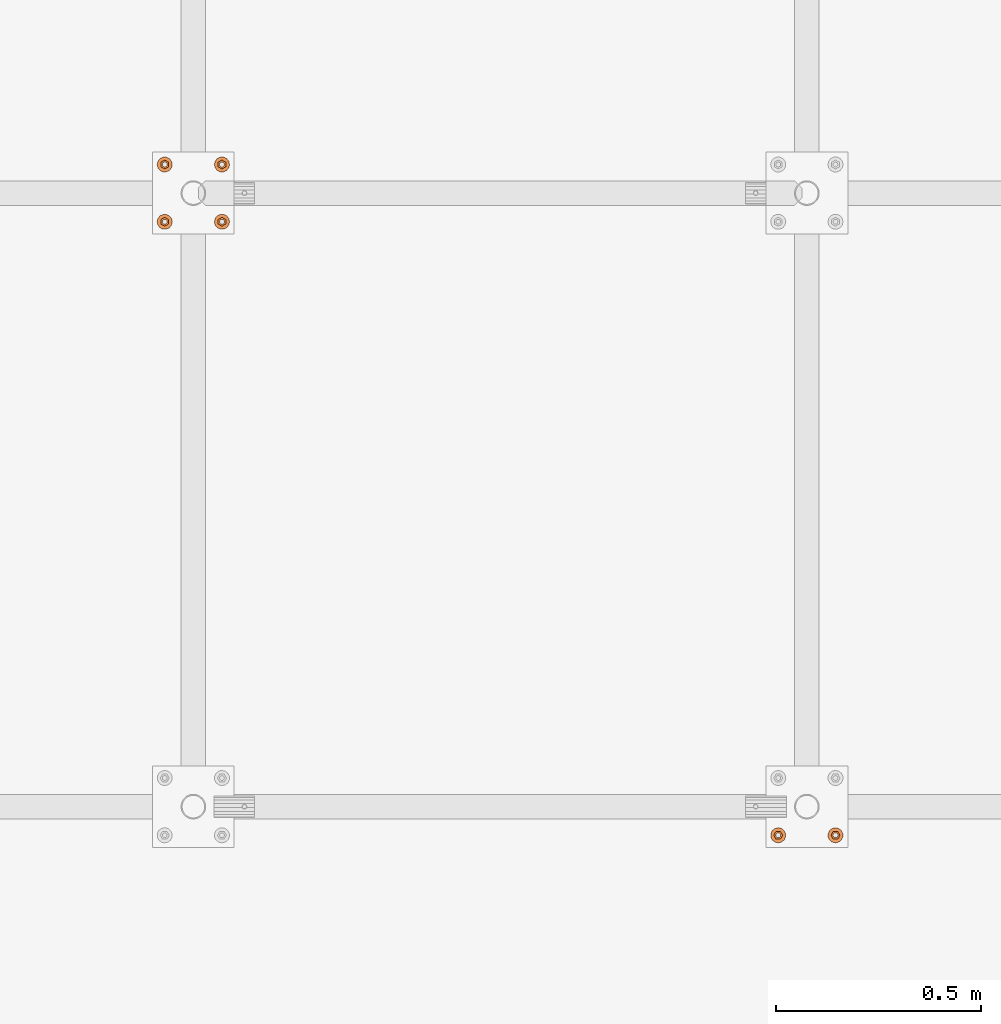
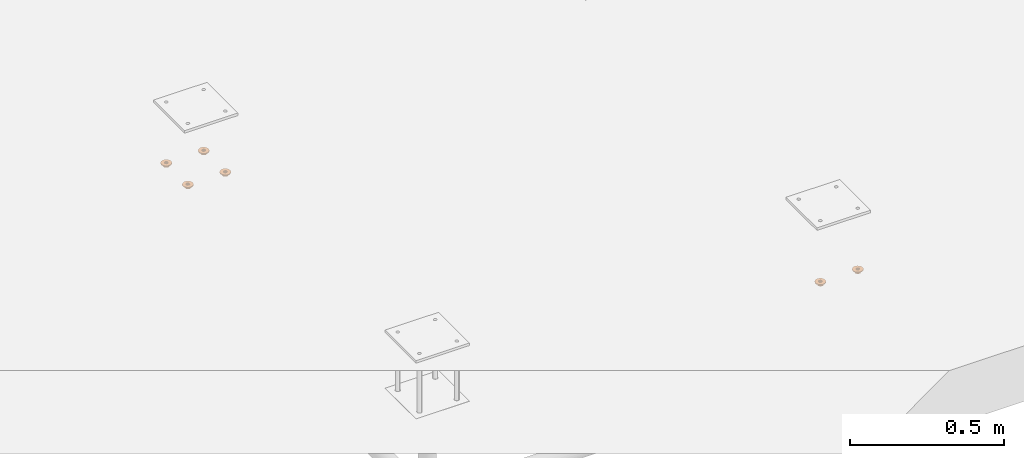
# One storey, part 21 of 30: 12 proxies.
"""IFC2X3 building model written with IfcOpenShell, lengths in millimetres."""

from ifc_helpers import new_model, entity, si_unit, converted_unit, origin_with_axes, place, context, project, spatial, faceted_brep, material, element, save


model = new_model("IFC2X3")

# Units and contexts
model_context = context("Model", 3, precision=1e-09, world=origin_with_axes())
ifc_project = project(units=[si_unit("LENGTHUNIT", "METRE", prefix="MILLI"), si_unit("AREAUNIT", "SQUARE_METRE"), si_unit("VOLUMEUNIT", "CUBIC_METRE"), converted_unit("PLANEANGLEUNIT", "DEGREE", entity("IfcPlaneAngleMeasure", 0.01745329), si_unit("PLANEANGLEUNIT", "RADIAN"), dimensions=[0, 0, 0, 0, 0, 0, 0])], contexts=[model_context])

# Site, building, storey
site_placement = place(None, origin_with_axes())
site = spatial("IfcSite", under=ifc_project, at=site_placement, Name="M?nsinger Stra?e, 81477 M?nchen", CompositionType="ELEMENT")
building_placement = place(site_placement, origin_with_axes())
building = spatial("IfcBuilding", under=site, at=building_placement, Name="Struktur 1", CompositionType="ELEMENT")
storey_placement = place(building_placement, origin_with_axes())
storey = spatial("IfcBuildingStorey", under=building, at=storey_placement, Name="Default Storey", CompositionType="ELEMENT", Elevation=0.0)

# Proxies
ifc_material = material(Name="Kein")
proxy_1_placement = place(None, origin_with_axes())
element("IfcBuildingElementProxy", 1, at=proxy_1_placement, inside=storey, material=ifc_material, ObjectType="-", context=model_context, shape_type="Brep", body=[
    faceted_brep([(2987.849678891, 2906.799376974, 6515.0), (2987.849678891, 2906.799376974, 6512.0), (2992.983041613, 2913.236410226, 6512.0), (2992.983041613, 2913.236410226, 6515.0), (2972.198480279, 2903.227093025, 6515.0), (2980.431754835, 2903.227093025, 6515.0), (2994.815117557, 2921.2632594, 6515.0), (2992.983041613, 2929.290108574, 6515.0), (2987.849678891, 2935.727141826, 6515.0), (2980.431754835, 2939.299425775, 6515.0), (2972.198480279, 2939.299425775, 6515.0), (2964.780556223, 2935.727141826, 6515.0), (2959.647193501, 2929.290108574, 6515.0), (2957.815117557, 2921.2632594, 6515.0), (2959.647193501, 2913.236410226, 6515.0), (2964.780556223, 2906.799376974, 6515.0), (2979.565117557, 2915.634094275, 6515.0), (2976.315117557, 2914.7632594, 6515.0), (2973.065117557, 2915.634094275, 6515.0), (2970.685952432, 2918.0132594, 6515.0), (2969.815117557, 2921.2632594, 6515.0), (2970.685952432, 2924.5132594, 6515.0), (2973.065117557, 2926.892424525, 6515.0), (2976.315117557, 2927.7632594, 6515.0), (2979.565117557, 2926.892424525, 6515.0), (2981.944282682, 2924.5132594, 6515.0), (2982.815117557, 2921.2632594, 6515.0), (2981.944282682, 2918.0132594, 6515.0), (2992.983041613, 2929.290108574, 6512.0), (2994.815117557, 2921.2632594, 6512.0), (2980.431754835, 2903.227093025, 6512.0), (2972.198480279, 2903.227093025, 6512.0), (2964.780556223, 2906.799376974, 6512.0), (2959.647193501, 2913.236410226, 6512.0), (2957.815117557, 2921.2632594, 6512.0), (2959.647193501, 2929.290108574, 6512.0), (2964.780556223, 2935.727141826, 6512.0), (2972.198480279, 2939.299425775, 6512.0), (2980.431754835, 2939.299425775, 6512.0), (2987.849678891, 2935.727141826, 6512.0), (2982.815117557, 2921.2632594, 6512.0), (2981.944282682, 2924.5132594, 6512.0), (2979.565117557, 2926.892424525, 6512.0), (2976.315117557, 2927.7632594, 6512.0), (2973.065117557, 2926.892424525, 6512.0), (2970.685952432, 2924.5132594, 6512.0), (2969.815117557, 2921.2632594, 6512.0), (2970.685952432, 2918.0132594, 6512.0), (2973.065117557, 2915.634094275, 6512.0), (2976.315117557, 2914.7632594, 6512.0), (2979.565117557, 2915.634094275, 6512.0), (2981.944282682, 2918.0132594, 6512.0)], [[[0, 1, 2, 3]], [[4, 5, 0, 3, 6, 7, 8, 9, 10, 11, 12, 13, 14, 15], [16, 17, 18, 19, 20, 21, 22, 23, 24, 25, 26, 27]], [[28, 29, 2, 1, 30, 31, 32, 33, 34, 35, 36, 37, 38, 39], [40, 41, 42, 43, 44, 45, 46, 47, 48, 49, 50, 51]], [[1, 0, 5, 30]], [[27, 51, 50, 16]], [[51, 27, 26, 40]], [[3, 2, 29, 6]], [[30, 5, 4, 31]], [[16, 50, 49, 17]], [[40, 26, 25, 41]], [[6, 29, 28, 7]], [[31, 4, 15, 32]], [[17, 49, 48, 18]], [[41, 25, 24, 42]], [[7, 28, 39, 8]], [[32, 15, 14, 33]], [[18, 48, 47, 19]], [[42, 24, 23, 43]], [[8, 39, 38, 9]], [[33, 14, 13, 34]], [[19, 47, 46, 20]], [[22, 44, 43, 23]], [[9, 38, 37, 10]], [[45, 21, 20, 46]], [[44, 22, 21, 45]], [[34, 13, 12, 35]], [[10, 37, 36, 11]], [[35, 12, 11, 36]]]),
])
proxy_2_placement = place(None, origin_with_axes())
element("IfcBuildingElementProxy", 2, at=proxy_2_placement, inside=storey, material=ifc_material, ObjectType="-", context=model_context, shape_type="Brep", body=[
    faceted_brep([(2982.315117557, 2921.2632594, 6512.0), (2982.315117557, 2921.2632594, 6502.0), (2981.51126998, 2918.2632594, 6502.0), (2981.51126998, 2918.2632594, 6512.0), (2979.315117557, 2916.067106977, 6502.0), (2979.315117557, 2916.067106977, 6512.0), (2981.51126998, 2924.2632594, 6512.0), (2981.51126998, 2924.2632594, 6502.0), (2985.815117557, 2926.748086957, 6512.0), (2976.315117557, 2932.232914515, 6512.0), (2966.815117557, 2926.748086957, 6512.0), (2966.815117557, 2915.778431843, 6512.0), (2976.315117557, 2910.293604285, 6512.0), (2985.815117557, 2915.778431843, 6512.0), (2979.315117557, 2926.459411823, 6512.0), (2976.315117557, 2915.2632594, 6512.0), (2973.315117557, 2916.067106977, 6512.0), (2971.118965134, 2918.2632594, 6512.0), (2970.315117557, 2921.2632594, 6512.0), (2971.118965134, 2924.2632594, 6512.0), (2973.315117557, 2926.459411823, 6512.0), (2976.315117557, 2927.2632594, 6512.0), (2976.315117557, 2932.232914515, 6502.0), (2985.815117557, 2926.748086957, 6502.0), (2985.815117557, 2915.778431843, 6502.0), (2976.315117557, 2910.293604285, 6502.0), (2966.815117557, 2915.778431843, 6502.0), (2966.815117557, 2926.748086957, 6502.0), (2979.315117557, 2926.459411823, 6502.0), (2976.315117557, 2927.2632594, 6502.0), (2973.315117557, 2926.459411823, 6502.0), (2971.118965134, 2924.2632594, 6502.0), (2970.315117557, 2921.2632594, 6502.0), (2971.118965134, 2918.2632594, 6502.0), (2973.315117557, 2916.067106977, 6502.0), (2976.315117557, 2915.2632594, 6502.0)], [[[0, 1, 2, 3]], [[3, 2, 4, 5]], [[1, 0, 6, 7]], [[8, 9, 10, 11, 12, 13], [14, 6, 0, 3, 5, 15, 16, 17, 18, 19, 20, 21]], [[22, 23, 24, 25, 26, 27], [1, 7, 28, 29, 30, 31, 32, 33, 34, 35, 4, 2]], [[7, 6, 14, 28]], [[24, 23, 8, 13]], [[5, 4, 35, 15]], [[13, 12, 25, 24]], [[28, 14, 21, 29]], [[23, 22, 9, 8]], [[15, 35, 34, 16]], [[12, 11, 26, 25]], [[29, 21, 20, 30]], [[22, 27, 10, 9]], [[16, 34, 33, 17]], [[27, 26, 11, 10]], [[30, 20, 19, 31]], [[17, 33, 32, 18]], [[31, 19, 18, 32]]]),
])
proxy_3_placement = place(None, origin_with_axes())
element("IfcBuildingElementProxy", 3, at=proxy_3_placement, inside=storey, material=ifc_material, ObjectType="-", context=model_context, shape_type="Brep", body=[
    faceted_brep([(2842.315117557, 2921.2632594, 6512.0), (2842.315117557, 2921.2632594, 6502.0), (2841.51126998, 2918.2632594, 6502.0), (2841.51126998, 2918.2632594, 6512.0), (2839.315117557, 2916.067106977, 6502.0), (2839.315117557, 2916.067106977, 6512.0), (2841.51126998, 2924.2632594, 6512.0), (2841.51126998, 2924.2632594, 6502.0), (2845.815117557, 2926.748086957, 6512.0), (2836.315117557, 2932.232914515, 6512.0), (2826.815117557, 2926.748086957, 6512.0), (2826.815117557, 2915.778431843, 6512.0), (2836.315117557, 2910.293604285, 6512.0), (2845.815117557, 2915.778431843, 6512.0), (2839.315117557, 2926.459411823, 6512.0), (2836.315117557, 2915.2632594, 6512.0), (2833.315117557, 2916.067106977, 6512.0), (2831.118965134, 2918.2632594, 6512.0), (2830.315117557, 2921.2632594, 6512.0), (2831.118965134, 2924.2632594, 6512.0), (2833.315117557, 2926.459411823, 6512.0), (2836.315117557, 2927.2632594, 6512.0), (2836.315117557, 2932.232914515, 6502.0), (2845.815117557, 2926.748086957, 6502.0), (2845.815117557, 2915.778431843, 6502.0), (2836.315117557, 2910.293604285, 6502.0), (2826.815117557, 2915.778431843, 6502.0), (2826.815117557, 2926.748086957, 6502.0), (2839.315117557, 2926.459411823, 6502.0), (2836.315117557, 2927.2632594, 6502.0), (2833.315117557, 2926.459411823, 6502.0), (2831.118965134, 2924.2632594, 6502.0), (2830.315117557, 2921.2632594, 6502.0), (2831.118965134, 2918.2632594, 6502.0), (2833.315117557, 2916.067106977, 6502.0), (2836.315117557, 2915.2632594, 6502.0)], [[[0, 1, 2, 3]], [[3, 2, 4, 5]], [[1, 0, 6, 7]], [[8, 9, 10, 11, 12, 13], [14, 6, 0, 3, 5, 15, 16, 17, 18, 19, 20, 21]], [[22, 23, 24, 25, 26, 27], [1, 7, 28, 29, 30, 31, 32, 33, 34, 35, 4, 2]], [[7, 6, 14, 28]], [[24, 23, 8, 13]], [[5, 4, 35, 15]], [[13, 12, 25, 24]], [[28, 14, 21, 29]], [[23, 22, 9, 8]], [[15, 35, 34, 16]], [[12, 11, 26, 25]], [[29, 21, 20, 30]], [[22, 27, 10, 9]], [[16, 34, 33, 17]], [[27, 26, 11, 10]], [[30, 20, 19, 31]], [[17, 33, 32, 18]], [[31, 19, 18, 32]]]),
])
proxy_4_placement = place(None, origin_with_axes())
element("IfcBuildingElementProxy", 4, at=proxy_4_placement, inside=storey, material=ifc_material, ObjectType="-", context=model_context, shape_type="Brep", body=[
    faceted_brep([(2847.849678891, 2906.799376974, 6515.0), (2847.849678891, 2906.799376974, 6512.0), (2852.983041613, 2913.236410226, 6512.0), (2852.983041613, 2913.236410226, 6515.0), (2832.198480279, 2903.227093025, 6515.0), (2840.431754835, 2903.227093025, 6515.0), (2854.815117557, 2921.2632594, 6515.0), (2852.983041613, 2929.290108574, 6515.0), (2847.849678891, 2935.727141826, 6515.0), (2840.431754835, 2939.299425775, 6515.0), (2832.198480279, 2939.299425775, 6515.0), (2824.780556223, 2935.727141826, 6515.0), (2819.647193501, 2929.290108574, 6515.0), (2817.815117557, 2921.2632594, 6515.0), (2819.647193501, 2913.236410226, 6515.0), (2824.780556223, 2906.799376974, 6515.0), (2839.565117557, 2915.634094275, 6515.0), (2836.315117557, 2914.7632594, 6515.0), (2833.065117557, 2915.634094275, 6515.0), (2830.685952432, 2918.0132594, 6515.0), (2829.815117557, 2921.2632594, 6515.0), (2830.685952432, 2924.5132594, 6515.0), (2833.065117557, 2926.892424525, 6515.0), (2836.315117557, 2927.7632594, 6515.0), (2839.565117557, 2926.892424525, 6515.0), (2841.944282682, 2924.5132594, 6515.0), (2842.815117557, 2921.2632594, 6515.0), (2841.944282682, 2918.0132594, 6515.0), (2852.983041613, 2929.290108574, 6512.0), (2854.815117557, 2921.2632594, 6512.0), (2840.431754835, 2903.227093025, 6512.0), (2832.198480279, 2903.227093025, 6512.0), (2824.780556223, 2906.799376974, 6512.0), (2819.647193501, 2913.236410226, 6512.0), (2817.815117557, 2921.2632594, 6512.0), (2819.647193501, 2929.290108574, 6512.0), (2824.780556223, 2935.727141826, 6512.0), (2832.198480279, 2939.299425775, 6512.0), (2840.431754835, 2939.299425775, 6512.0), (2847.849678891, 2935.727141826, 6512.0), (2842.815117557, 2921.2632594, 6512.0), (2841.944282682, 2924.5132594, 6512.0), (2839.565117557, 2926.892424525, 6512.0), (2836.315117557, 2927.7632594, 6512.0), (2833.065117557, 2926.892424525, 6512.0), (2830.685952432, 2924.5132594, 6512.0), (2829.815117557, 2921.2632594, 6512.0), (2830.685952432, 2918.0132594, 6512.0), (2833.065117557, 2915.634094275, 6512.0), (2836.315117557, 2914.7632594, 6512.0), (2839.565117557, 2915.634094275, 6512.0), (2841.944282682, 2918.0132594, 6512.0)], [[[0, 1, 2, 3]], [[4, 5, 0, 3, 6, 7, 8, 9, 10, 11, 12, 13, 14, 15], [16, 17, 18, 19, 20, 21, 22, 23, 24, 25, 26, 27]], [[28, 29, 2, 1, 30, 31, 32, 33, 34, 35, 36, 37, 38, 39], [40, 41, 42, 43, 44, 45, 46, 47, 48, 49, 50, 51]], [[1, 0, 5, 30]], [[27, 51, 50, 16]], [[51, 27, 26, 40]], [[3, 2, 29, 6]], [[30, 5, 4, 31]], [[16, 50, 49, 17]], [[40, 26, 25, 41]], [[6, 29, 28, 7]], [[31, 4, 15, 32]], [[17, 49, 48, 18]], [[41, 25, 24, 42]], [[7, 28, 39, 8]], [[32, 15, 14, 33]], [[18, 48, 47, 19]], [[42, 24, 23, 43]], [[8, 39, 38, 9]], [[33, 14, 13, 34]], [[19, 47, 46, 20]], [[22, 44, 43, 23]], [[9, 38, 37, 10]], [[45, 21, 20, 46]], [[44, 22, 21, 45]], [[34, 13, 12, 35]], [[10, 37, 36, 11]], [[35, 12, 11, 36]]]),
])
proxy_5_placement = place(None, origin_with_axes())
element("IfcBuildingElementProxy", 5, at=proxy_5_placement, inside=storey, material=ifc_material, ObjectType="-", context=model_context, shape_type="Brep", body=[
    faceted_brep([(2847.849678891, 3046.799376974, 6515.0), (2847.849678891, 3046.799376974, 6512.0), (2852.983041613, 3053.236410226, 6512.0), (2852.983041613, 3053.236410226, 6515.0), (2832.198480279, 3043.227093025, 6515.0), (2840.431754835, 3043.227093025, 6515.0), (2854.815117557, 3061.2632594, 6515.0), (2852.983041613, 3069.290108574, 6515.0), (2847.849678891, 3075.727141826, 6515.0), (2840.431754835, 3079.299425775, 6515.0), (2832.198480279, 3079.299425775, 6515.0), (2824.780556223, 3075.727141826, 6515.0), (2819.647193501, 3069.290108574, 6515.0), (2817.815117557, 3061.2632594, 6515.0), (2819.647193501, 3053.236410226, 6515.0), (2824.780556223, 3046.799376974, 6515.0), (2839.565117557, 3055.634094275, 6515.0), (2836.315117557, 3054.7632594, 6515.0), (2833.065117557, 3055.634094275, 6515.0), (2830.685952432, 3058.0132594, 6515.0), (2829.815117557, 3061.2632594, 6515.0), (2830.685952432, 3064.5132594, 6515.0), (2833.065117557, 3066.892424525, 6515.0), (2836.315117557, 3067.7632594, 6515.0), (2839.565117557, 3066.892424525, 6515.0), (2841.944282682, 3064.5132594, 6515.0), (2842.815117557, 3061.2632594, 6515.0), (2841.944282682, 3058.0132594, 6515.0), (2852.983041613, 3069.290108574, 6512.0), (2854.815117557, 3061.2632594, 6512.0), (2840.431754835, 3043.227093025, 6512.0), (2832.198480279, 3043.227093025, 6512.0), (2824.780556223, 3046.799376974, 6512.0), (2819.647193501, 3053.236410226, 6512.0), (2817.815117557, 3061.2632594, 6512.0), (2819.647193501, 3069.290108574, 6512.0), (2824.780556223, 3075.727141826, 6512.0), (2832.198480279, 3079.299425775, 6512.0), (2840.431754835, 3079.299425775, 6512.0), (2847.849678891, 3075.727141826, 6512.0), (2842.815117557, 3061.2632594, 6512.0), (2841.944282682, 3064.5132594, 6512.0), (2839.565117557, 3066.892424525, 6512.0), (2836.315117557, 3067.7632594, 6512.0), (2833.065117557, 3066.892424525, 6512.0), (2830.685952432, 3064.5132594, 6512.0), (2829.815117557, 3061.2632594, 6512.0), (2830.685952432, 3058.0132594, 6512.0), (2833.065117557, 3055.634094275, 6512.0), (2836.315117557, 3054.7632594, 6512.0), (2839.565117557, 3055.634094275, 6512.0), (2841.944282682, 3058.0132594, 6512.0)], [[[0, 1, 2, 3]], [[4, 5, 0, 3, 6, 7, 8, 9, 10, 11, 12, 13, 14, 15], [16, 17, 18, 19, 20, 21, 22, 23, 24, 25, 26, 27]], [[28, 29, 2, 1, 30, 31, 32, 33, 34, 35, 36, 37, 38, 39], [40, 41, 42, 43, 44, 45, 46, 47, 48, 49, 50, 51]], [[1, 0, 5, 30]], [[27, 51, 50, 16]], [[51, 27, 26, 40]], [[3, 2, 29, 6]], [[30, 5, 4, 31]], [[16, 50, 49, 17]], [[40, 26, 25, 41]], [[6, 29, 28, 7]], [[31, 4, 15, 32]], [[17, 49, 48, 18]], [[41, 25, 24, 42]], [[7, 28, 39, 8]], [[32, 15, 14, 33]], [[18, 48, 47, 19]], [[42, 24, 23, 43]], [[8, 39, 38, 9]], [[33, 14, 13, 34]], [[19, 47, 46, 20]], [[22, 44, 43, 23]], [[9, 38, 37, 10]], [[45, 21, 20, 46]], [[44, 22, 21, 45]], [[34, 13, 12, 35]], [[10, 37, 36, 11]], [[35, 12, 11, 36]]]),
])
proxy_6_placement = place(None, origin_with_axes())
element("IfcBuildingElementProxy", 6, at=proxy_6_placement, inside=storey, material=ifc_material, ObjectType="-", context=model_context, shape_type="Brep", body=[
    faceted_brep([(2842.315117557, 3061.2632594, 6512.0), (2842.315117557, 3061.2632594, 6502.0), (2841.51126998, 3058.2632594, 6502.0), (2841.51126998, 3058.2632594, 6512.0), (2839.315117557, 3056.067106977, 6502.0), (2839.315117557, 3056.067106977, 6512.0), (2841.51126998, 3064.2632594, 6512.0), (2841.51126998, 3064.2632594, 6502.0), (2845.815117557, 3066.748086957, 6512.0), (2836.315117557, 3072.232914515, 6512.0), (2826.815117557, 3066.748086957, 6512.0), (2826.815117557, 3055.778431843, 6512.0), (2836.315117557, 3050.293604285, 6512.0), (2845.815117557, 3055.778431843, 6512.0), (2839.315117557, 3066.459411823, 6512.0), (2836.315117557, 3055.2632594, 6512.0), (2833.315117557, 3056.067106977, 6512.0), (2831.118965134, 3058.2632594, 6512.0), (2830.315117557, 3061.2632594, 6512.0), (2831.118965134, 3064.2632594, 6512.0), (2833.315117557, 3066.459411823, 6512.0), (2836.315117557, 3067.2632594, 6512.0), (2836.315117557, 3072.232914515, 6502.0), (2845.815117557, 3066.748086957, 6502.0), (2845.815117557, 3055.778431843, 6502.0), (2836.315117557, 3050.293604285, 6502.0), (2826.815117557, 3055.778431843, 6502.0), (2826.815117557, 3066.748086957, 6502.0), (2839.315117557, 3066.459411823, 6502.0), (2836.315117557, 3067.2632594, 6502.0), (2833.315117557, 3066.459411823, 6502.0), (2831.118965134, 3064.2632594, 6502.0), (2830.315117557, 3061.2632594, 6502.0), (2831.118965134, 3058.2632594, 6502.0), (2833.315117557, 3056.067106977, 6502.0), (2836.315117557, 3055.2632594, 6502.0)], [[[0, 1, 2, 3]], [[3, 2, 4, 5]], [[1, 0, 6, 7]], [[8, 9, 10, 11, 12, 13], [14, 6, 0, 3, 5, 15, 16, 17, 18, 19, 20, 21]], [[22, 23, 24, 25, 26, 27], [1, 7, 28, 29, 30, 31, 32, 33, 34, 35, 4, 2]], [[7, 6, 14, 28]], [[24, 23, 8, 13]], [[5, 4, 35, 15]], [[13, 12, 25, 24]], [[28, 14, 21, 29]], [[23, 22, 9, 8]], [[15, 35, 34, 16]], [[12, 11, 26, 25]], [[29, 21, 20, 30]], [[22, 27, 10, 9]], [[16, 34, 33, 17]], [[27, 26, 11, 10]], [[30, 20, 19, 31]], [[17, 33, 32, 18]], [[31, 19, 18, 32]]]),
])
proxy_7_placement = place(None, origin_with_axes())
element("IfcBuildingElementProxy", 7, at=proxy_7_placement, inside=storey, material=ifc_material, ObjectType="-", context=model_context, shape_type="Brep", body=[
    faceted_brep([(2982.315117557, 3061.2632594, 6512.0), (2982.315117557, 3061.2632594, 6502.0), (2981.51126998, 3058.2632594, 6502.0), (2981.51126998, 3058.2632594, 6512.0), (2979.315117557, 3056.067106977, 6502.0), (2979.315117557, 3056.067106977, 6512.0), (2981.51126998, 3064.2632594, 6512.0), (2981.51126998, 3064.2632594, 6502.0), (2985.815117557, 3066.748086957, 6512.0), (2976.315117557, 3072.232914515, 6512.0), (2966.815117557, 3066.748086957, 6512.0), (2966.815117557, 3055.778431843, 6512.0), (2976.315117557, 3050.293604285, 6512.0), (2985.815117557, 3055.778431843, 6512.0), (2979.315117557, 3066.459411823, 6512.0), (2976.315117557, 3055.2632594, 6512.0), (2973.315117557, 3056.067106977, 6512.0), (2971.118965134, 3058.2632594, 6512.0), (2970.315117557, 3061.2632594, 6512.0), (2971.118965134, 3064.2632594, 6512.0), (2973.315117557, 3066.459411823, 6512.0), (2976.315117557, 3067.2632594, 6512.0), (2976.315117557, 3072.232914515, 6502.0), (2985.815117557, 3066.748086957, 6502.0), (2985.815117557, 3055.778431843, 6502.0), (2976.315117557, 3050.293604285, 6502.0), (2966.815117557, 3055.778431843, 6502.0), (2966.815117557, 3066.748086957, 6502.0), (2979.315117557, 3066.459411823, 6502.0), (2976.315117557, 3067.2632594, 6502.0), (2973.315117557, 3066.459411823, 6502.0), (2971.118965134, 3064.2632594, 6502.0), (2970.315117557, 3061.2632594, 6502.0), (2971.118965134, 3058.2632594, 6502.0), (2973.315117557, 3056.067106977, 6502.0), (2976.315117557, 3055.2632594, 6502.0)], [[[0, 1, 2, 3]], [[3, 2, 4, 5]], [[1, 0, 6, 7]], [[8, 9, 10, 11, 12, 13], [14, 6, 0, 3, 5, 15, 16, 17, 18, 19, 20, 21]], [[22, 23, 24, 25, 26, 27], [1, 7, 28, 29, 30, 31, 32, 33, 34, 35, 4, 2]], [[7, 6, 14, 28]], [[24, 23, 8, 13]], [[5, 4, 35, 15]], [[13, 12, 25, 24]], [[28, 14, 21, 29]], [[23, 22, 9, 8]], [[15, 35, 34, 16]], [[12, 11, 26, 25]], [[29, 21, 20, 30]], [[22, 27, 10, 9]], [[16, 34, 33, 17]], [[27, 26, 11, 10]], [[30, 20, 19, 31]], [[17, 33, 32, 18]], [[31, 19, 18, 32]]]),
])
proxy_8_placement = place(None, origin_with_axes())
element("IfcBuildingElementProxy", 8, at=proxy_8_placement, inside=storey, material=ifc_material, ObjectType="-", context=model_context, shape_type="Brep", body=[
    faceted_brep([(2987.849678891, 3046.799376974, 6515.0), (2987.849678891, 3046.799376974, 6512.0), (2992.983041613, 3053.236410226, 6512.0), (2992.983041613, 3053.236410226, 6515.0), (2972.198480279, 3043.227093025, 6515.0), (2980.431754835, 3043.227093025, 6515.0), (2994.815117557, 3061.2632594, 6515.0), (2992.983041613, 3069.290108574, 6515.0), (2987.849678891, 3075.727141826, 6515.0), (2980.431754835, 3079.299425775, 6515.0), (2972.198480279, 3079.299425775, 6515.0), (2964.780556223, 3075.727141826, 6515.0), (2959.647193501, 3069.290108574, 6515.0), (2957.815117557, 3061.2632594, 6515.0), (2959.647193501, 3053.236410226, 6515.0), (2964.780556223, 3046.799376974, 6515.0), (2979.565117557, 3055.634094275, 6515.0), (2976.315117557, 3054.7632594, 6515.0), (2973.065117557, 3055.634094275, 6515.0), (2970.685952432, 3058.0132594, 6515.0), (2969.815117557, 3061.2632594, 6515.0), (2970.685952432, 3064.5132594, 6515.0), (2973.065117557, 3066.892424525, 6515.0), (2976.315117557, 3067.7632594, 6515.0), (2979.565117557, 3066.892424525, 6515.0), (2981.944282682, 3064.5132594, 6515.0), (2982.815117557, 3061.2632594, 6515.0), (2981.944282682, 3058.0132594, 6515.0), (2992.983041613, 3069.290108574, 6512.0), (2994.815117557, 3061.2632594, 6512.0), (2980.431754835, 3043.227093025, 6512.0), (2972.198480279, 3043.227093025, 6512.0), (2964.780556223, 3046.799376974, 6512.0), (2959.647193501, 3053.236410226, 6512.0), (2957.815117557, 3061.2632594, 6512.0), (2959.647193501, 3069.290108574, 6512.0), (2964.780556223, 3075.727141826, 6512.0), (2972.198480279, 3079.299425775, 6512.0), (2980.431754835, 3079.299425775, 6512.0), (2987.849678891, 3075.727141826, 6512.0), (2982.815117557, 3061.2632594, 6512.0), (2981.944282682, 3064.5132594, 6512.0), (2979.565117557, 3066.892424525, 6512.0), (2976.315117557, 3067.7632594, 6512.0), (2973.065117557, 3066.892424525, 6512.0), (2970.685952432, 3064.5132594, 6512.0), (2969.815117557, 3061.2632594, 6512.0), (2970.685952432, 3058.0132594, 6512.0), (2973.065117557, 3055.634094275, 6512.0), (2976.315117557, 3054.7632594, 6512.0), (2979.565117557, 3055.634094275, 6512.0), (2981.944282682, 3058.0132594, 6512.0)], [[[0, 1, 2, 3]], [[4, 5, 0, 3, 6, 7, 8, 9, 10, 11, 12, 13, 14, 15], [16, 17, 18, 19, 20, 21, 22, 23, 24, 25, 26, 27]], [[28, 29, 2, 1, 30, 31, 32, 33, 34, 35, 36, 37, 38, 39], [40, 41, 42, 43, 44, 45, 46, 47, 48, 49, 50, 51]], [[1, 0, 5, 30]], [[27, 51, 50, 16]], [[51, 27, 26, 40]], [[3, 2, 29, 6]], [[30, 5, 4, 31]], [[16, 50, 49, 17]], [[40, 26, 25, 41]], [[6, 29, 28, 7]], [[31, 4, 15, 32]], [[17, 49, 48, 18]], [[41, 25, 24, 42]], [[7, 28, 39, 8]], [[32, 15, 14, 33]], [[18, 48, 47, 19]], [[42, 24, 23, 43]], [[8, 39, 38, 9]], [[33, 14, 13, 34]], [[19, 47, 46, 20]], [[22, 44, 43, 23]], [[9, 38, 37, 10]], [[45, 21, 20, 46]], [[44, 22, 21, 45]], [[34, 13, 12, 35]], [[10, 37, 36, 11]], [[35, 12, 11, 36]]]),
])
proxy_9_placement = place(None, origin_with_axes())
element("IfcBuildingElementProxy", 9, at=proxy_9_placement, inside=storey, material=ifc_material, ObjectType="-", context=model_context, shape_type="Brep", body=[
    faceted_brep([(4476.315117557, 1415.2632594, 6502.0), (4476.315117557, 1415.2632594, 6512.0), (4479.315117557, 1416.067106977, 6512.0), (4479.315117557, 1416.067106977, 6502.0), (4481.51126998, 1418.2632594, 6512.0), (4481.51126998, 1418.2632594, 6502.0), (4473.315117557, 1416.067106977, 6502.0), (4473.315117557, 1416.067106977, 6512.0), (4470.83029, 1411.7632594, 6512.0), (4481.799945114, 1411.7632594, 6512.0), (4487.284772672, 1421.2632594, 6512.0), (4481.799945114, 1430.7632594, 6512.0), (4470.83029, 1430.7632594, 6512.0), (4465.345462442, 1421.2632594, 6512.0), (4471.118965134, 1418.2632594, 6512.0), (4470.315117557, 1421.2632594, 6512.0), (4471.118965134, 1424.2632594, 6512.0), (4473.315117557, 1426.459411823, 6512.0), (4476.315117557, 1427.2632594, 6512.0), (4479.315117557, 1426.459411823, 6512.0), (4481.51126998, 1424.2632594, 6512.0), (4482.315117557, 1421.2632594, 6512.0), (4470.83029, 1411.7632594, 6502.0), (4465.345462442, 1421.2632594, 6502.0), (4470.83029, 1430.7632594, 6502.0), (4481.799945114, 1430.7632594, 6502.0), (4487.284772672, 1421.2632594, 6502.0), (4481.799945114, 1411.7632594, 6502.0), (4471.118965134, 1418.2632594, 6502.0), (4482.315117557, 1421.2632594, 6502.0), (4470.315117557, 1421.2632594, 6502.0), (4481.51126998, 1424.2632594, 6502.0), (4471.118965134, 1424.2632594, 6502.0), (4479.315117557, 1426.459411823, 6502.0), (4473.315117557, 1426.459411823, 6502.0), (4476.315117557, 1427.2632594, 6502.0)], [[[0, 1, 2, 3]], [[3, 2, 4, 5]], [[1, 0, 6, 7]], [[8, 9, 10, 11, 12, 13], [7, 14, 15, 16, 17, 18, 19, 20, 21, 4, 2, 1]], [[22, 23, 24, 25, 26, 27]], [[7, 6, 28, 14]], [[22, 27, 9, 8]], [[5, 4, 21, 29]], [[10, 9, 27, 26]], [[14, 28, 30, 15]], [[23, 22, 8, 13]], [[29, 21, 20, 31]], [[11, 10, 26, 25]], [[15, 30, 32, 16]], [[24, 23, 13, 12]], [[31, 20, 19, 33]], [[25, 24, 12, 11]], [[16, 32, 34, 17]], [[33, 19, 18, 35]], [[17, 34, 35, 18]]]),
])
proxy_10_placement = place(None, origin_with_axes())
element("IfcBuildingElementProxy", 10, at=proxy_10_placement, inside=storey, material=ifc_material, ObjectType="-", context=model_context, shape_type="Brep", body=[
    faceted_brep([(4490.778999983, 1409.728698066, 6512.0), (4490.778999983, 1409.728698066, 6515.0), (4484.341966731, 1404.595335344, 6515.0), (4484.341966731, 1404.595335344, 6512.0), (4494.351283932, 1417.146622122, 6515.0), (4494.351283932, 1425.379896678, 6515.0), (4490.778999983, 1432.797820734, 6515.0), (4484.341966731, 1437.931183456, 6515.0), (4476.315117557, 1439.7632594, 6515.0), (4468.288268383, 1437.931183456, 6515.0), (4461.851235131, 1432.797820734, 6515.0), (4458.278951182, 1425.379896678, 6515.0), (4458.278951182, 1417.146622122, 6515.0), (4461.851235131, 1409.728698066, 6515.0), (4468.288268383, 1404.595335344, 6515.0), (4476.315117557, 1402.7632594, 6515.0), (4481.944282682, 1418.0132594, 6515.0), (4479.565117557, 1415.634094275, 6515.0), (4476.315117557, 1414.7632594, 6515.0), (4473.065117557, 1415.634094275, 6515.0), (4470.685952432, 1418.0132594, 6515.0), (4469.815117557, 1421.2632594, 6515.0), (4470.685952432, 1424.5132594, 6515.0), (4473.065117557, 1426.892424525, 6515.0), (4476.315117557, 1427.7632594, 6515.0), (4479.565117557, 1426.892424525, 6515.0), (4481.944282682, 1424.5132594, 6515.0), (4482.815117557, 1421.2632594, 6515.0), (4476.315117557, 1402.7632594, 6512.0), (4468.288268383, 1404.595335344, 6512.0), (4461.851235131, 1409.728698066, 6512.0), (4458.278951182, 1417.146622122, 6512.0), (4458.278951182, 1425.379896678, 6512.0), (4461.851235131, 1432.797820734, 6512.0), (4468.288268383, 1437.931183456, 6512.0), (4476.315117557, 1439.7632594, 6512.0), (4484.341966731, 1437.931183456, 6512.0), (4490.778999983, 1432.797820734, 6512.0), (4494.351283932, 1425.379896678, 6512.0), (4494.351283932, 1417.146622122, 6512.0), (4476.315117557, 1414.7632594, 6512.0), (4479.565117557, 1415.634094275, 6512.0), (4481.944282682, 1418.0132594, 6512.0), (4482.815117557, 1421.2632594, 6512.0), (4481.944282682, 1424.5132594, 6512.0), (4479.565117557, 1426.892424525, 6512.0), (4476.315117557, 1427.7632594, 6512.0), (4473.065117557, 1426.892424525, 6512.0), (4470.685952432, 1424.5132594, 6512.0), (4469.815117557, 1421.2632594, 6512.0), (4470.685952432, 1418.0132594, 6512.0), (4473.065117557, 1415.634094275, 6512.0)], [[[0, 1, 2, 3]], [[4, 5, 6, 7, 8, 9, 10, 11, 12, 13, 14, 15, 2, 1], [16, 17, 18, 19, 20, 21, 22, 23, 24, 25, 26, 27]], [[28, 29, 30, 31, 32, 33, 34, 35, 36, 37, 38, 39, 0, 3], [40, 41, 42, 43, 44, 45, 46, 47, 48, 49, 50, 51]], [[1, 0, 39, 4]], [[41, 17, 16, 42]], [[17, 41, 40, 18]], [[3, 2, 15, 28]], [[4, 39, 38, 5]], [[42, 16, 27, 43]], [[18, 40, 51, 19]], [[28, 15, 14, 29]], [[5, 38, 37, 6]], [[43, 27, 26, 44]], [[19, 51, 50, 20]], [[29, 14, 13, 30]], [[6, 37, 36, 7]], [[44, 26, 25, 45]], [[20, 50, 49, 21]], [[30, 13, 12, 31]], [[7, 36, 35, 8]], [[45, 25, 24, 46]], [[48, 22, 21, 49]], [[31, 12, 11, 32]], [[23, 47, 46, 24]], [[22, 48, 47, 23]], [[8, 35, 34, 9]], [[32, 11, 10, 33]], [[9, 34, 33, 10]]]),
])
proxy_11_placement = place(None, origin_with_axes())
element("IfcBuildingElementProxy", 11, at=proxy_11_placement, inside=storey, material=ifc_material, ObjectType="-", context=model_context, shape_type="Brep", body=[
    faceted_brep([(4350.778999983, 1409.728698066, 6512.0), (4350.778999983, 1409.728698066, 6515.0), (4344.341966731, 1404.595335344, 6515.0), (4344.341966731, 1404.595335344, 6512.0), (4354.351283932, 1417.146622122, 6515.0), (4354.351283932, 1425.379896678, 6515.0), (4350.778999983, 1432.797820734, 6515.0), (4344.341966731, 1437.931183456, 6515.0), (4336.315117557, 1439.7632594, 6515.0), (4328.288268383, 1437.931183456, 6515.0), (4321.851235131, 1432.797820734, 6515.0), (4318.278951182, 1425.379896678, 6515.0), (4318.278951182, 1417.146622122, 6515.0), (4321.851235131, 1409.728698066, 6515.0), (4328.288268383, 1404.595335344, 6515.0), (4336.315117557, 1402.7632594, 6515.0), (4341.944282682, 1418.0132594, 6515.0), (4339.565117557, 1415.634094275, 6515.0), (4336.315117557, 1414.7632594, 6515.0), (4333.065117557, 1415.634094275, 6515.0), (4330.685952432, 1418.0132594, 6515.0), (4329.815117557, 1421.2632594, 6515.0), (4330.685952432, 1424.5132594, 6515.0), (4333.065117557, 1426.892424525, 6515.0), (4336.315117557, 1427.7632594, 6515.0), (4339.565117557, 1426.892424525, 6515.0), (4341.944282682, 1424.5132594, 6515.0), (4342.815117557, 1421.2632594, 6515.0), (4336.315117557, 1402.7632594, 6512.0), (4328.288268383, 1404.595335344, 6512.0), (4321.851235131, 1409.728698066, 6512.0), (4318.278951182, 1417.146622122, 6512.0), (4318.278951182, 1425.379896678, 6512.0), (4321.851235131, 1432.797820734, 6512.0), (4328.288268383, 1437.931183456, 6512.0), (4336.315117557, 1439.7632594, 6512.0), (4344.341966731, 1437.931183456, 6512.0), (4350.778999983, 1432.797820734, 6512.0), (4354.351283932, 1425.379896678, 6512.0), (4354.351283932, 1417.146622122, 6512.0), (4336.315117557, 1414.7632594, 6512.0), (4339.565117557, 1415.634094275, 6512.0), (4341.944282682, 1418.0132594, 6512.0), (4342.815117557, 1421.2632594, 6512.0), (4341.944282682, 1424.5132594, 6512.0), (4339.565117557, 1426.892424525, 6512.0), (4336.315117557, 1427.7632594, 6512.0), (4333.065117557, 1426.892424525, 6512.0), (4330.685952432, 1424.5132594, 6512.0), (4329.815117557, 1421.2632594, 6512.0), (4330.685952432, 1418.0132594, 6512.0), (4333.065117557, 1415.634094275, 6512.0)], [[[0, 1, 2, 3]], [[4, 5, 6, 7, 8, 9, 10, 11, 12, 13, 14, 15, 2, 1], [16, 17, 18, 19, 20, 21, 22, 23, 24, 25, 26, 27]], [[28, 29, 30, 31, 32, 33, 34, 35, 36, 37, 38, 39, 0, 3], [40, 41, 42, 43, 44, 45, 46, 47, 48, 49, 50, 51]], [[1, 0, 39, 4]], [[41, 17, 16, 42]], [[17, 41, 40, 18]], [[3, 2, 15, 28]], [[4, 39, 38, 5]], [[42, 16, 27, 43]], [[18, 40, 51, 19]], [[28, 15, 14, 29]], [[5, 38, 37, 6]], [[43, 27, 26, 44]], [[19, 51, 50, 20]], [[29, 14, 13, 30]], [[6, 37, 36, 7]], [[44, 26, 25, 45]], [[20, 50, 49, 21]], [[30, 13, 12, 31]], [[7, 36, 35, 8]], [[45, 25, 24, 46]], [[48, 22, 21, 49]], [[31, 12, 11, 32]], [[23, 47, 46, 24]], [[22, 48, 47, 23]], [[8, 35, 34, 9]], [[32, 11, 10, 33]], [[9, 34, 33, 10]]]),
])
proxy_12_placement = place(None, origin_with_axes())
element("IfcBuildingElementProxy", 12, at=proxy_12_placement, inside=storey, material=ifc_material, ObjectType="-", context=model_context, shape_type="Brep", body=[
    faceted_brep([(4336.315117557, 1415.2632594, 6502.0), (4336.315117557, 1415.2632594, 6512.0), (4339.315117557, 1416.067106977, 6512.0), (4339.315117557, 1416.067106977, 6502.0), (4341.51126998, 1418.2632594, 6512.0), (4341.51126998, 1418.2632594, 6502.0), (4333.315117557, 1416.067106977, 6502.0), (4333.315117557, 1416.067106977, 6512.0), (4330.83029, 1411.7632594, 6512.0), (4341.799945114, 1411.7632594, 6512.0), (4347.284772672, 1421.2632594, 6512.0), (4341.799945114, 1430.7632594, 6512.0), (4330.83029, 1430.7632594, 6512.0), (4325.345462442, 1421.2632594, 6512.0), (4331.118965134, 1418.2632594, 6512.0), (4330.315117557, 1421.2632594, 6512.0), (4331.118965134, 1424.2632594, 6512.0), (4333.315117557, 1426.459411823, 6512.0), (4336.315117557, 1427.2632594, 6512.0), (4339.315117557, 1426.459411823, 6512.0), (4341.51126998, 1424.2632594, 6512.0), (4342.315117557, 1421.2632594, 6512.0), (4330.83029, 1411.7632594, 6502.0), (4325.345462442, 1421.2632594, 6502.0), (4330.83029, 1430.7632594, 6502.0), (4341.799945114, 1430.7632594, 6502.0), (4347.284772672, 1421.2632594, 6502.0), (4341.799945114, 1411.7632594, 6502.0), (4331.118965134, 1418.2632594, 6502.0), (4342.315117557, 1421.2632594, 6502.0), (4330.315117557, 1421.2632594, 6502.0), (4341.51126998, 1424.2632594, 6502.0), (4331.118965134, 1424.2632594, 6502.0), (4339.315117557, 1426.459411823, 6502.0), (4333.315117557, 1426.459411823, 6502.0), (4336.315117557, 1427.2632594, 6502.0)], [[[0, 1, 2, 3]], [[3, 2, 4, 5]], [[1, 0, 6, 7]], [[8, 9, 10, 11, 12, 13], [7, 14, 15, 16, 17, 18, 19, 20, 21, 4, 2, 1]], [[22, 23, 24, 25, 26, 27]], [[7, 6, 28, 14]], [[22, 27, 9, 8]], [[5, 4, 21, 29]], [[10, 9, 27, 26]], [[14, 28, 30, 15]], [[23, 22, 8, 13]], [[29, 21, 20, 31]], [[11, 10, 26, 25]], [[15, 30, 32, 16]], [[24, 23, 13, 12]], [[31, 20, 19, 33]], [[25, 24, 12, 11]], [[16, 32, 34, 17]], [[33, 19, 18, 35]], [[17, 34, 35, 18]]]),
])

save(model, "model.ifc")
